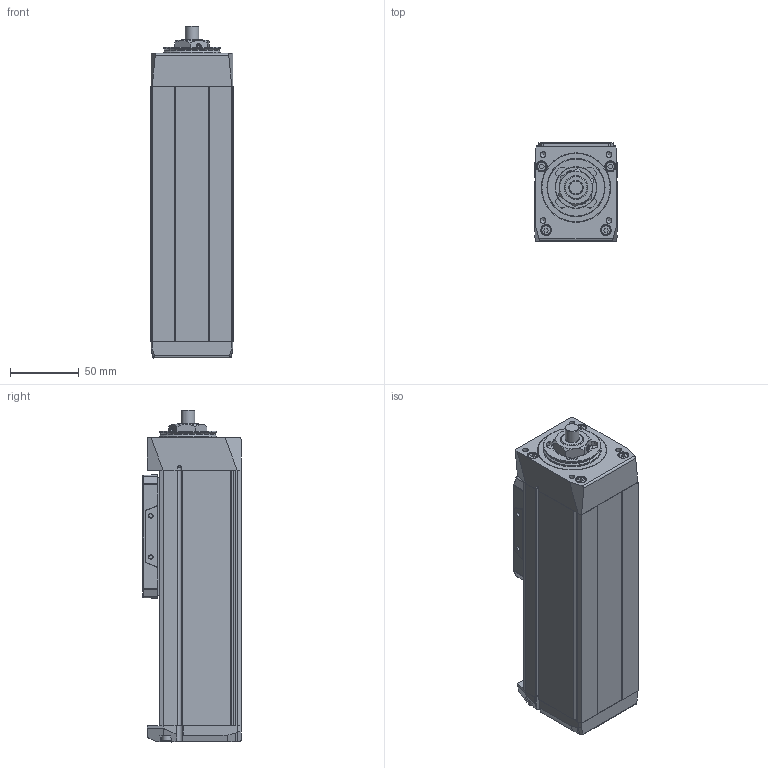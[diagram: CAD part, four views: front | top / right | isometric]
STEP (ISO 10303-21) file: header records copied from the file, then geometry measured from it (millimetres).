
FILE_DESCRIPTION(/* description */ ('STEP AP214'),/* implementation_level */ '2;1');
FILE_NAME(/* name */ 'MGBS 60 1210 50(0)',/* time_stamp */ '2023-04-17T13:11:06+02:00',/* author */ ('License CC BY-ND 4.0'),/* organization */ ('CADENAS'),/* preprocessor_version */ 'ST-DEVELOPER v19.3',/* originating_system */ 'PARTsolutions',/* authorisation */ ' ');
FILE_SCHEMA (('AUTOMOTIVE_DESIGN {1 0 10303 214 3 1 1}'));
Length unit declared in the file: millimetre
Products named in the file (6): MGBS 60 1210 50(0); MGBS 60 50_protection_strip; MGBS 60_carriage; MGBS 60_end_block; MGBS 60 50_profile; MGBS 60_drive_block
Assembly tree (5 placements, depth 2):
  MGBS 60 1210 50(0)
    MGBS 60 50_protection_strip
    MGBS 60_carriage
    MGBS 60_end_block
    MGBS 60 50_profile
    MGBS 60_drive_block
Bounding box: 60 x 72 x 242 mm (x, y, z)
Volume: 847490.2 mm3; surface area: 126451.9 mm2
Topology: 5 solids, 5 shells, 694 faces, 1756 edges, 1135 vertices
Faces by surface type: plane 366, cylinder 144, cone 97, bspline 62, torus 23, sphere 2
Full cylindrical faces by diameter (mm): 2.459 x2, 2.46 x2, 3.242 x4, 4 x14, 4.134 x8, 4.8 x2, 5 x2, 5.5 x4, 7 x8, 7.6 x4, 8 x2, 10 x1, 11 x3, 23.8 x1, 30 x1, 42 x2, 50.2 x1
Entity records: 24817 total; most frequent: CARTESIAN_POINT 4104, DIRECTION 3372, ORIENTED_EDGE 3194, EDGE_CURVE 1597, AXIS2_PLACEMENT_3D 1197, VERTEX_POINT 1113, LINE 978, VECTOR 978
